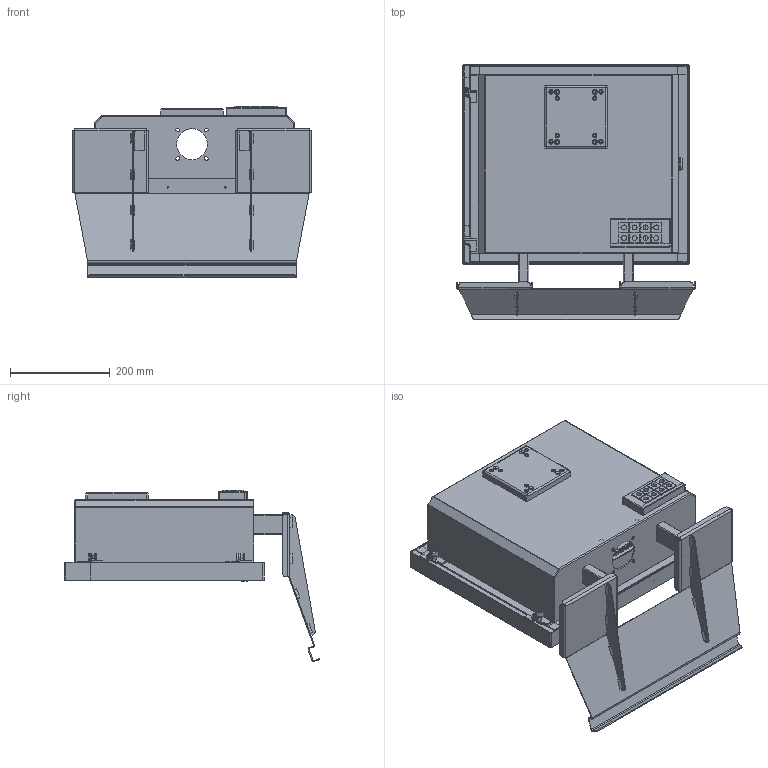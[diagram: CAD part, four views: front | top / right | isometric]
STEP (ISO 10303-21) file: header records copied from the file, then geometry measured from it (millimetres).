
FILE_DESCRIPTION(/* description */ (''),/* implementation_level */ '2;1');
FILE_NAME(/* name */ 'Z:\470_Messrechner\Vereinfachte Modelle\IDS110x_m_Tastaturablage.stp',/* time_stamp */ '2019-07-10T15:08:15+02:00',/* author */ ('PE'),/* organization */ (''),/* preprocessor_version */ 'ST-DEVELOPER v17',/* originating_system */ 'Autodesk Inventor 2018',/* authorisation */ '');
FILE_SCHEMA (('CONFIG_CONTROL_DESIGN'));
Products named in the file (4): MR715; Front MR715 komplett; Gehäuse Komplett MR715; Tastaturablage
Assembly tree (3 placements, depth 2):
  MR715
    Front MR715 komplett
    Gehäuse Komplett MR715
    Tastaturablage
Bounding box: 477 x 511.24 x 342.76 mm (x, y, z)
Volume: 6531330.1 mm3; surface area: 2260966.4 mm2
Topology: 6 solids, 8 shells, 2659 faces, 7366 edges, 4750 vertices
Faces by surface type: plane 1752, cylinder 726, cone 71, bspline 48, sphere 40, torus 22
Full cylindrical faces by diameter (mm): 2.459 x2, 2.5 x6, 2.6 x3, 3 x51, 3.5 x30, 4.917 x8, 4.963 x2, 5.39 x2, 5.4 x2, 5.5 x9, 5.6 x2, 6 x2, 6.55 x6, 8.72 x8, 8.75 x8, 9 x1, 9.3 x1, 11.18 x8, 12 x3, 12.05 x1, 15.8 x1, 16.1 x1, 16.5 x1, 16.7 x1, 17 x1, 17.2 x1, 18 x1, 19.8 x1, 28 x1, 62 x2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
Entity records: 95032 total; most frequent: CARTESIAN_POINT 25560, ORIENTED_EDGE 14664, DIRECTION 13418, EDGE_CURVE 7332, VERTEX_POINT 4750, AXIS2_PLACEMENT_3D 4480, LINE 4458, VECTOR 4458
